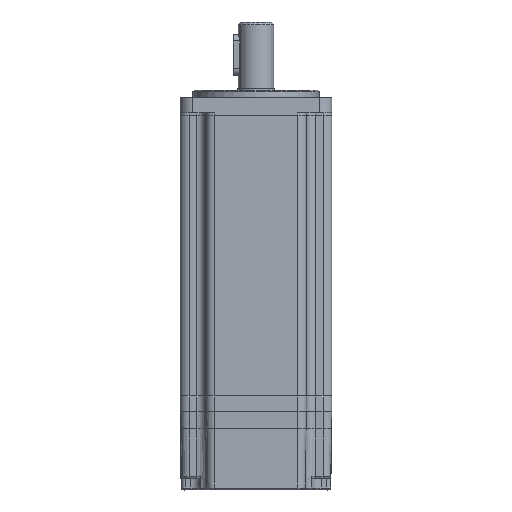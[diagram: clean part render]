
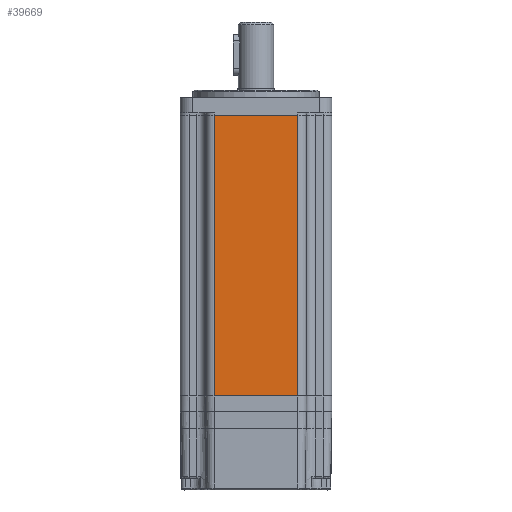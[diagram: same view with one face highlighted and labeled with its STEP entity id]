
A CAD part, left-side view. The second image highlights one B-rep face of the part: STEP entity #39669.
In plain terms, the highlighted planar face has unit normal (-1, 0, 0) as drawn and (0, 1, 0) by its records, which use the part's own axes.
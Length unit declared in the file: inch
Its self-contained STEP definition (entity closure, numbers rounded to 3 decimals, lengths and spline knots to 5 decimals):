
#6445 = CARTESIAN_POINT ( 'NONE',  ( -0.64961, 1.1811, -4.37008 ) ) ;
#7666 = EDGE_LOOP ( 'NONE', ( #40643, #49005, #30663, #37096 ) ) ;
#9505 = DIRECTION ( 'NONE',  ( 0., -1., 0. ) ) ;
#12881 = CARTESIAN_POINT ( 'NONE',  ( 0.64961, 1.1811, -4.37008 ) ) ;
#17504 = VERTEX_POINT ( 'NONE', #52658 ) ;
#18157 = CARTESIAN_POINT ( 'NONE',  ( -0.7874, 1.1811, 0. ) ) ;
#20085 = FACE_OUTER_BOUND ( 'NONE', #7666, .T. ) ;
#28913 = VERTEX_POINT ( 'NONE', #35996 ) ;
#30663 = ORIENTED_EDGE ( 'NONE', *, *, #92746, .F. ) ;
#33628 = CARTESIAN_POINT ( 'NONE',  ( 0.64961, 1.1811, -4.37008 ) ) ;
#34101 = VECTOR ( 'NONE', #49434, 39.37008 ) ;
#35996 = CARTESIAN_POINT ( 'NONE',  ( -0.64961, 1.1811, -4.37008 ) ) ;
#37096 = ORIENTED_EDGE ( 'NONE', *, *, #41533, .F. ) ;
#37511 = VECTOR ( 'NONE', #131767, 39.37008 ) ;
#39669 = ADVANCED_FACE ( 'NONE', ( #20085 ), #63094, .F. ) ;
#40643 = ORIENTED_EDGE ( 'NONE', *, *, #102114, .F. ) ;
#41533 = EDGE_CURVE ( 'NONE', #44570, #28913, #102988, .T. ) ;
#42739 = CARTESIAN_POINT ( 'NONE',  ( -0.64961, 1.1811, 0. ) ) ;
#44570 = VERTEX_POINT ( 'NONE', #42739 ) ;
#45796 = LINE ( 'NONE', #88754, #37511 ) ;
#49005 = ORIENTED_EDGE ( 'NONE', *, *, #72741, .F. ) ;
#49434 = DIRECTION ( 'NONE',  ( 0., 0., -1. ) ) ;
#52499 = DIRECTION ( 'NONE',  ( 0., 0., -1. ) ) ;
#52658 = CARTESIAN_POINT ( 'NONE',  ( 0.64961, 1.1811, 0. ) ) ;
#61164 = DIRECTION ( 'NONE',  ( -1., 0., 0. ) ) ;
#63094 = PLANE ( 'NONE',  #72207 ) ;
#72207 = AXIS2_PLACEMENT_3D ( 'NONE', #106074, #9505, #52499 ) ;
#72741 = EDGE_CURVE ( 'NONE', #78492, #17504, #130193, .T. ) ;
#76626 = DIRECTION ( 'NONE',  ( 0., 0., 1. ) ) ;
#78492 = VERTEX_POINT ( 'NONE', #12881 ) ;
#81684 = VECTOR ( 'NONE', #61164, 39.37008 ) ;
#86432 = VECTOR ( 'NONE', #76626, 39.37008 ) ;
#88754 = CARTESIAN_POINT ( 'NONE',  ( 0.7874, 1.1811, -4.37008 ) ) ;
#92746 = EDGE_CURVE ( 'NONE', #28913, #78492, #45796, .T. ) ;
#102114 = EDGE_CURVE ( 'NONE', #17504, #44570, #114720, .T. ) ;
#102988 = LINE ( 'NONE', #6445, #34101 ) ;
#106074 = CARTESIAN_POINT ( 'NONE',  ( -0.7874, 1.1811, -4.37008 ) ) ;
#114720 = LINE ( 'NONE', #18157, #81684 ) ;
#130193 = LINE ( 'NONE', #33628, #86432 ) ;
#131767 = DIRECTION ( 'NONE',  ( 1., 0., 0. ) ) ;
